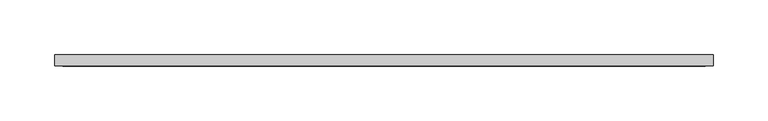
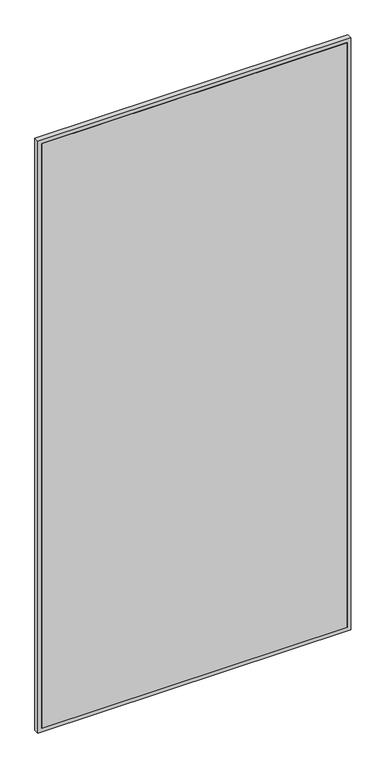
"""IFC4 building model written with IfcOpenShell, lengths in millimetres: furniture geometry, V01 Espejo : V1.2 Espejo 60x120."""

from ifc_helpers import new_model, si_unit, frame, origin, place, context, project, spatial, polyline, outline, extrude, source, transform, mapped, element, save


def furniture_ebda3335(model_context):
    return source(origin(), model_context, "Body", "SweptSolid", [
        extrude(outline(polyline([(337.7003264, 10.0), (337.7003264, 0.0), (-248.2996736, 0.0), (-248.2996736, 10.0), (337.7003264, 10.0)])), frame((0.0, 0.0, 7.0), z_axis=(0.0, 0.0, 1.0), x_axis=(1.0, 0.0, 0.0)), (0.0, 0.0, 1.0), 1186.0),
        extrude(outline(polyline([(1200.0, 344.7003264), (1200.0, -255.2996736), (0.0, -255.2996736), (0.0, 344.7003264), (1200.0, 344.7003264)]), holes=[polyline([(1193.0, 337.7003264), (7.0, 337.7003264), (7.0, -248.2996736), (1193.0, -248.2996736), (1193.0, 337.7003264)])]), frame((0.0, 0.0, 0.0), z_axis=(0.0, 1.0, 0.0), x_axis=(0.0, 0.0, 1.0)), (0.0, 0.0, 1.0), 10.0),
    ])


if __name__ == "__main__":
    model = new_model("IFC4")
    model_context = context("Model", 3, world=origin())
    ifc_project = project(units=[si_unit("LENGTHUNIT", "METRE", prefix="MILLI")], contexts=[model_context])
    site = spatial("IfcSite", under=ifc_project)
    building = spatial("IfcBuilding", under=site)
    placement = place(None, origin())
    furniture_shape = furniture_ebda3335(model_context)
    element("IfcFurniture", 1, ObjectType="V01 Espejo : V1.2 Espejo 60x120", at=placement, inside=building, context=model_context, shape_type="MappedRepresentation", body=[
        mapped(furniture_shape, transform((0.0, 0.0, 0.0), x_axis=(1.0, 0.0, 0.0), y_axis=(0.0, 1.0, 0.0), z_axis=(0.0, 0.0, 1.0))),
    ])
    save(model, "model.ifc")
